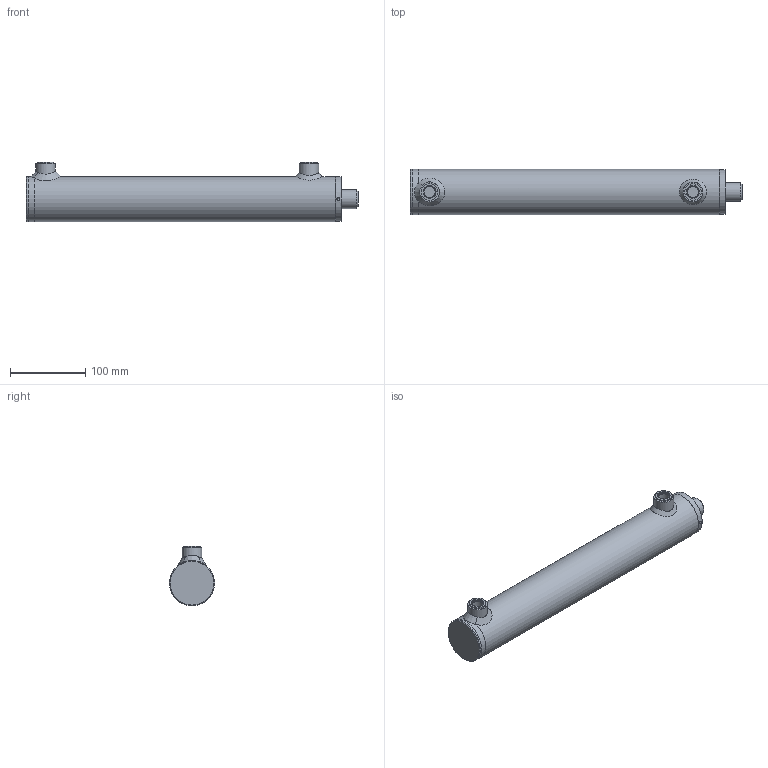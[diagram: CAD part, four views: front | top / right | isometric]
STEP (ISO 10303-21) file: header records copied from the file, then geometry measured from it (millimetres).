
FILE_DESCRIPTION( ( 'Unknown' ), '1' );
FILE_NAME( 'E:/LIBRERIA_3d/CILINDRI/HM0/HM02250300.stp', 'Unknown', ( 'Unknown' ), ( 'Unknown' ), 'PSStep 17.0.49', 'Unknown', ' ' );
FILE_SCHEMA( ( 'AUTOMOTIVE_DESIGN { 1 0 10303 214 1 1 1 1 }' ) );
Length unit declared in the file: millimetre
Products named in the file (18): CG06005025; CT00050020; STL2500300-oa4; Saldatura d'angolo 1-oa2; CBS0600000; FTM2500300-oa3; Assem1; Saldatura con preparazione 1-oa0; Saldatura d'angolo 1-oa1; CF00050060; CDA0002015; APG0600000; SBL2520300
Assembly tree (15 placements, depth 3):
  Saldatura d'angolo 1-oa2
  Saldatura d'angolo 1-oa2
  Assem1
    Saldatura con preparazione 1-oa0
    Saldatura con preparazione 1-oa0
    CF00050060
    CBS0600000
    CDA0002015
    APG0600000  x2
    SBL2520300
    CT00050020
      CT00050020
    CG06005025
      CG06005025
    STL2500300-oa4
      CBS0600000
      FTM2500300-oa3
  Saldatura d'angolo 1-oa1
  Saldatura d'angolo 1-oa1
Bounding box: 440 x 60 x 79 mm (x, y, z)
Volume: 705786.4 mm3; surface area: 239838.2 mm2
Topology: 16 solids, 16 shells, 201 faces, 407 edges, 251 vertices
Faces by surface type: plane 58, cylinder 55, torus 38, cone 32, bspline 18
Full cylindrical faces by diameter (mm): 4 x2, 4.25 x1, 5 x2, 7 x2, 14.95 x2, 16 x2, 16.6 x2, 19.4 x1, 20 x5, 22 x2, 24.5 x1, 25 x4, 26 x2, 27 x1, 28 x1, 30 x1, 33.6 x1, 34 x1, 35 x1, 45 x1, 45.41 x2, 48.66 x2, 49.9 x1, 50 x1, 50.3 x1, 50.5 x1, 50.6 x1, 51 x1, 52 x3, 52.5 x1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
Entity records: 8694 total; most frequent: CARTESIAN_POINT 3984, DIRECTION 710, ORIENTED_EDGE 432, AXIS2_PLACEMENT_3D 343, EDGE_LOOP 342, FACE_OUTER_BOUND 276, EDGE_CURVE 216, VERTEX_POINT 195
